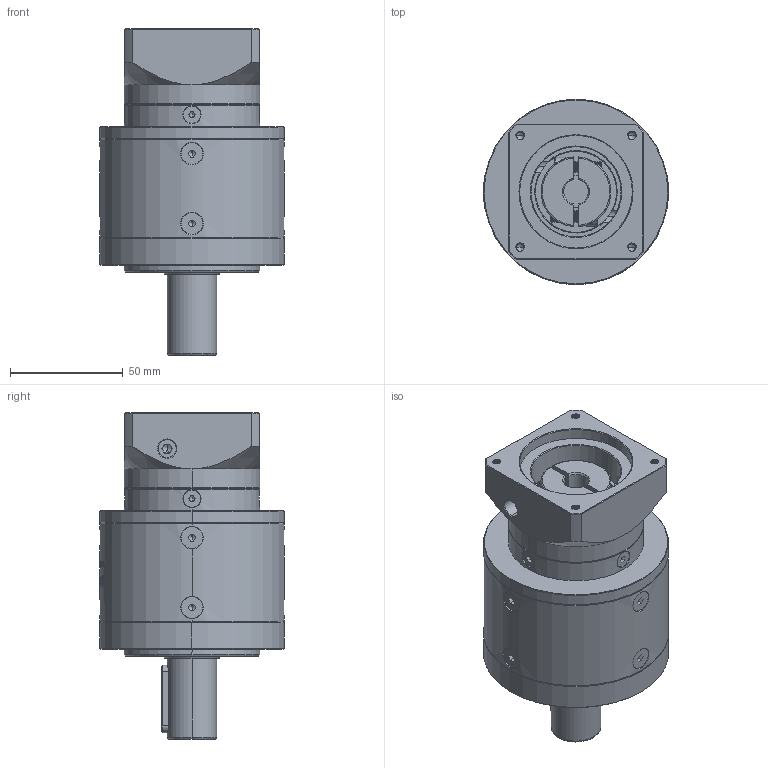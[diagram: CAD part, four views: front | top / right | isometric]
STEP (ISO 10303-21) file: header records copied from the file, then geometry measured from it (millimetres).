
FILE_DESCRIPTION (( 'STEP AP214' ), '1' );
FILE_NAME ('ZE80-D22-L2-11-50-70-M4.step', '2022-05-08T06:02:37', ( '' ), ( 'Microsoft' ), 'SwSTEP 2.0', 'SolidWorks 2016', '' );
FILE_SCHEMA (( 'AUTOMOTIVE_DESIGN' ));
Length unit declared in the file: millimetre
Products named in the file (1): ZE80-D22-L2-11-50-70-M4
Bounding box: 82 x 82 x 145 mm (x, y, z)
Volume: 446334.6 mm3; surface area: 64311.9 mm2
Topology: 18 solids, 18 shells, 2094 faces, 5501 edges, 3498 vertices
Faces by surface type: plane 943, cylinder 485, bspline 340, cone 312, torus 14
Entity records: 116327 total; most frequent: CARTESIAN_POINT 45781, ORIENTED_EDGE 10910, DIRECTION 8495, EDGE_CURVE 5455, VERTEX_POINT 3498, VECTOR 2905, LINE 2905, AXIS2_PLACEMENT_3D 2795
